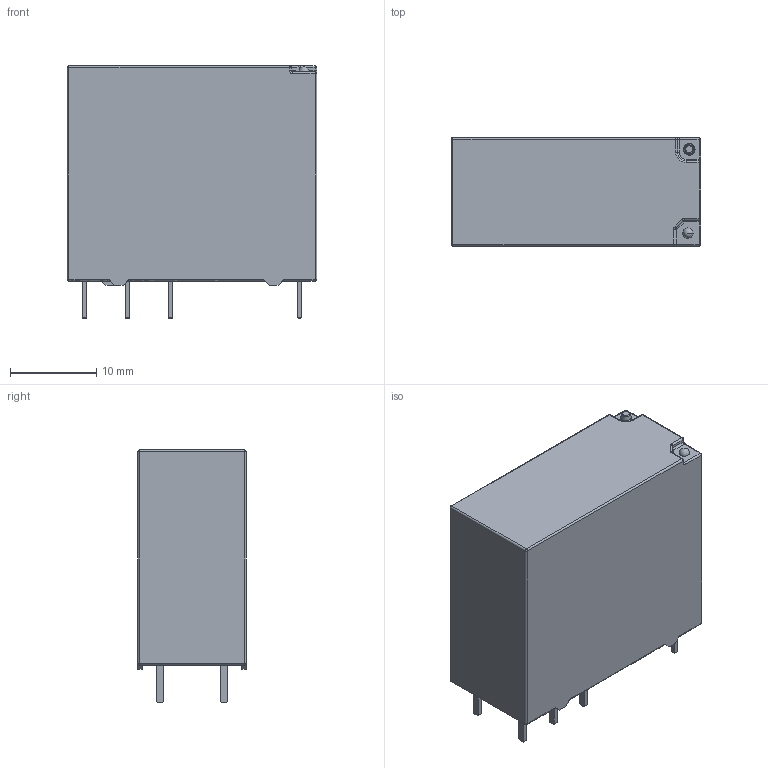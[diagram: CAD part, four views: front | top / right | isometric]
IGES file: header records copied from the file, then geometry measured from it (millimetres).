
Global section: file name: Filename.iges; native system: Open CASCADE 7.3; preprocessor: Open CASCADE IGES processor 7.3; date: 20200625.092254; units: millimetre
Bounding box: 29 x 12.6 x 29.3 mm (x, y, z)
Surface area: 2885.3 mm2 (no closed solid volume)
Topology: 0 solids, 0 shells, 161 faces, 2184 edges, 7989 vertices
Faces by surface type: plane 98, revolution 63
